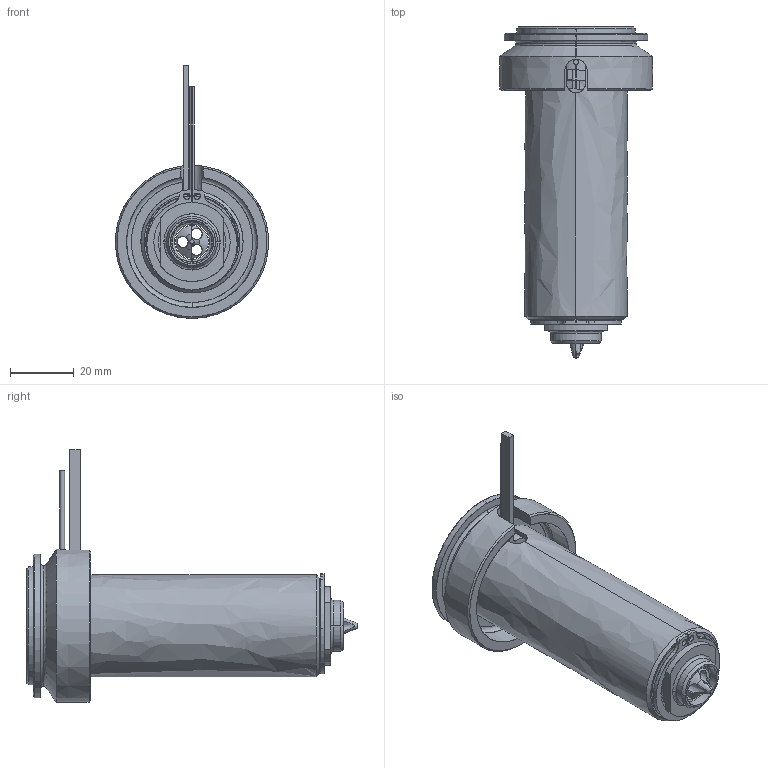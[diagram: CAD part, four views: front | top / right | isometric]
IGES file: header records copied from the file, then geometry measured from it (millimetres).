
Start section: SolidWorks IGES file using analytic representation for surfaces
Global section: file name: C:\Documents and Settings\ws-20\Desktop\TEM\UGEP5002-M-A-0 [Øf-1.36 ØC-13].IGS; native system: SolidWorks 2012; preprocessor: SolidWorks 2012; author: ws-20; date: 120426.101855; units: millimetre
Bounding box: 48 x 104.05 x 79.3 mm (x, y, z)
Surface area: 39703.2 mm2 (no closed solid volume)
Topology: 0 solids, 0 shells, 123 faces, 2306 edges, 2306 vertices
Faces by surface type: revolution 75, bspline 48
